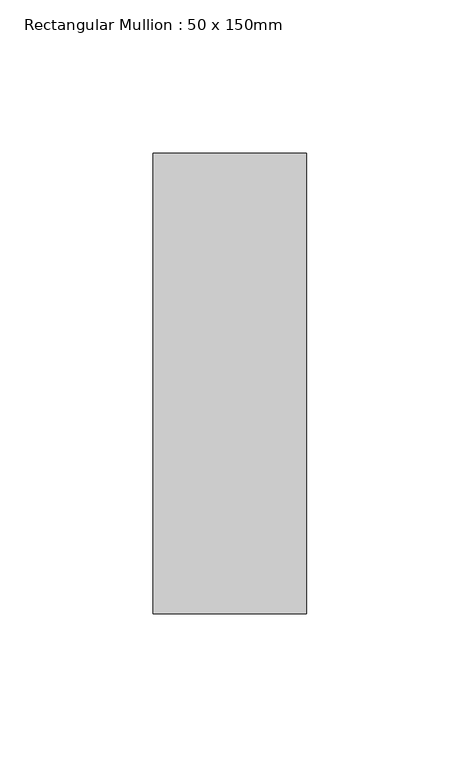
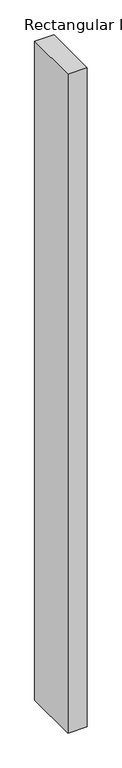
"""IFC4 building model written with IfcOpenShell, lengths in millimetres: member geometry, Rectangular Mullion : 50 x 150mm."""

from ifc_helpers import new_model, si_unit, frame, origin, place, context, project, spatial, polyline, outline, extrude, source, transform, mapped, element, save


def rectangular_mullion_50_x_150mm_ee50bbf3(model_context):
    return source(origin(), model_context, "Body", "SweptSolid", [
        extrude(outline(polyline([(0.0, 75.0), (0.0, -75.0), (-50.0, -75.0), (-50.0, 75.0), (0.0, 75.0)])), frame((0.0, 0.0, -1812.6021734), z_axis=(0.0, 0.0, 1.0), x_axis=(1.0, 0.0, 0.0)), (0.0, 0.0, 1.0), 1812.6021734),
    ])


if __name__ == "__main__":
    model = new_model("IFC4")
    model_context = context("Model", 3, world=origin())
    ifc_project = project(units=[si_unit("LENGTHUNIT", "METRE", prefix="MILLI")], contexts=[model_context])
    site = spatial("IfcSite", under=ifc_project)
    building = spatial("IfcBuilding", under=site)
    placement = place(None, origin())
    rectangular_mullion_50_x_150mm_shape = rectangular_mullion_50_x_150mm_ee50bbf3(model_context)
    element("IfcMember", 1, ObjectType="Rectangular Mullion : 50 x 150mm", at=placement, inside=building, context=model_context, shape_type="MappedRepresentation", body=[
        mapped(rectangular_mullion_50_x_150mm_shape, transform((0.0, 0.0, 0.0), x_axis=(1.0, 0.0, 0.0), y_axis=(0.0, 1.0, 0.0), z_axis=(0.0, 0.0, 1.0))),
    ])
    save(model, "model.ifc")
